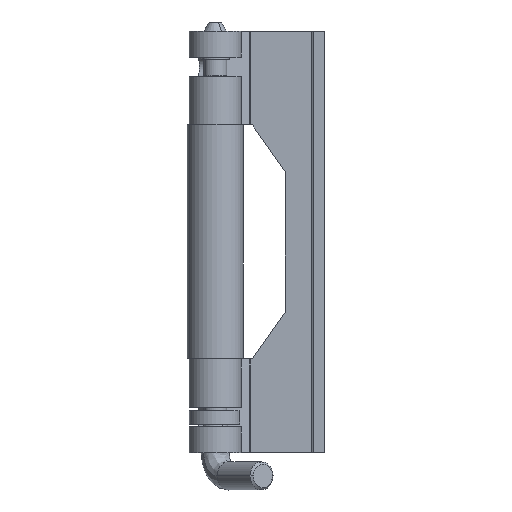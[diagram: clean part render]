
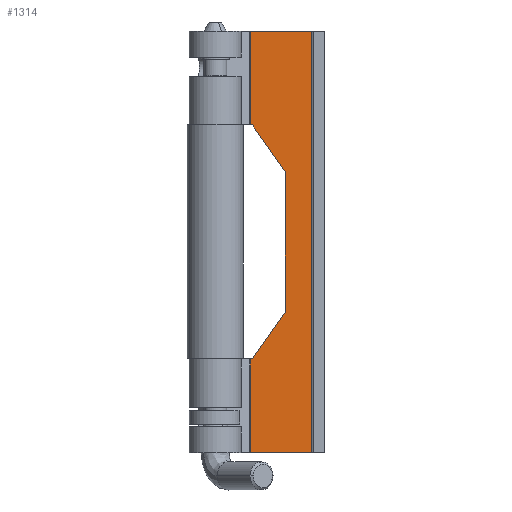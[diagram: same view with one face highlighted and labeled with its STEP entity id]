
A CAD part, front view. The second image highlights one B-rep face of the part: STEP entity #1314.
In plain terms, the highlighted planar face has unit normal (0, -1, 0).
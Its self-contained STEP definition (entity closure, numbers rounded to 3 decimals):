
#95 = AXIS2_PLACEMENT_3D ( 'NONE', #285, #227, #241 ) ;
#124 = DIRECTION ( 'NONE',  ( -0.574, 0., -0.819 ) ) ;
#148 = LINE ( 'NONE', #2706, #1033 ) ;
#183 = VERTEX_POINT ( 'NONE', #734 ) ;
#227 = DIRECTION ( 'NONE',  ( 0., 1., 0. ) ) ;
#233 = CARTESIAN_POINT ( 'NONE',  ( 20.65, 18.95, 90. ) ) ;
#241 = DIRECTION ( 'NONE',  ( 0., 0., 1. ) ) ;
#285 = CARTESIAN_POINT ( 'NONE',  ( 6.87, 18.95, 90. ) ) ;
#298 = CARTESIAN_POINT ( 'NONE',  ( 6.87, 18.95, 70. ) ) ;
#325 = EDGE_CURVE ( 'NONE', #568, #3334, #2840, .T. ) ;
#328 = DIRECTION ( 'NONE',  ( -1., 0., 0. ) ) ;
#440 = CARTESIAN_POINT ( 'NONE',  ( 40.483, 18.95, 66.464 ) ) ;
#492 = ORIENTED_EDGE ( 'NONE', *, *, #848, .F. ) ;
#568 = VERTEX_POINT ( 'NONE', #2238 ) ;
#573 = DIRECTION ( 'NONE',  ( 0., 0., -1. ) ) ;
#642 = ORIENTED_EDGE ( 'NONE', *, *, #2777, .T. ) ;
#734 = CARTESIAN_POINT ( 'NONE',  ( 7.498, 18.95, 90. ) ) ;
#768 = FACE_OUTER_BOUND ( 'NONE', #4289, .T. ) ;
#848 = EDGE_CURVE ( 'NONE', #2001, #183, #148, .T. ) ;
#883 = CARTESIAN_POINT ( 'NONE',  ( 7.498, 18.95, 0. ) ) ;
#1033 = VECTOR ( 'NONE', #2673, 1000. ) ;
#1055 = CARTESIAN_POINT ( 'NONE',  ( 7.948, 18.95, 20. ) ) ;
#1117 = VERTEX_POINT ( 'NONE', #2151 ) ;
#1145 = VERTEX_POINT ( 'NONE', #4247 ) ;
#1196 = DIRECTION ( 'NONE',  ( 0., 0., 1. ) ) ;
#1240 = CARTESIAN_POINT ( 'NONE',  ( 7.948, 18.95, 70. ) ) ;
#1285 = ORIENTED_EDGE ( 'NONE', *, *, #4010, .F. ) ;
#1314 = ADVANCED_FACE ( 'NONE', ( #768 ), #3478, .F. ) ;
#1317 = VERTEX_POINT ( 'NONE', #1333 ) ;
#1333 = CARTESIAN_POINT ( 'NONE',  ( 20.65, 18.95, 90. ) ) ;
#1365 = DIRECTION ( 'NONE',  ( 1., 0., 0. ) ) ;
#1373 = ORIENTED_EDGE ( 'NONE', *, *, #325, .T. ) ;
#1396 = CARTESIAN_POINT ( 'NONE',  ( 6.87, 18.95, 20. ) ) ;
#1446 = EDGE_CURVE ( 'NONE', #1145, #3334, #3670, .T. ) ;
#1477 = VECTOR ( 'NONE', #4085, 1000. ) ;
#1528 = LINE ( 'NONE', #298, #3295 ) ;
#1533 = CARTESIAN_POINT ( 'NONE',  ( 7.498, 18.95, 90. ) ) ;
#1584 = VECTOR ( 'NONE', #1981, 1000. ) ;
#1713 = ORIENTED_EDGE ( 'NONE', *, *, #3709, .T. ) ;
#1717 = DIRECTION ( 'NONE',  ( 1., 0., 0. ) ) ;
#1906 = LINE ( 'NONE', #4157, #3178 ) ;
#1948 = VERTEX_POINT ( 'NONE', #1240 ) ;
#1965 = ORIENTED_EDGE ( 'NONE', *, *, #2052, .F. ) ;
#1981 = DIRECTION ( 'NONE',  ( 0.574, 0., -0.819 ) ) ;
#1993 = VECTOR ( 'NONE', #124, 1000. ) ;
#2001 = VERTEX_POINT ( 'NONE', #2308 ) ;
#2052 = EDGE_CURVE ( 'NONE', #1117, #4324, #3301, .T. ) ;
#2081 = CARTESIAN_POINT ( 'NONE',  ( 20.95, 18.95, 0. ) ) ;
#2151 = CARTESIAN_POINT ( 'NONE',  ( 20.65, 18.95, 0. ) ) ;
#2238 = CARTESIAN_POINT ( 'NONE',  ( 14.95, 18.95, 30. ) ) ;
#2243 = VECTOR ( 'NONE', #573, 1000. ) ;
#2252 = EDGE_CURVE ( 'NONE', #4324, #1145, #4146, .T. ) ;
#2308 = CARTESIAN_POINT ( 'NONE',  ( 7.498, 18.95, 70. ) ) ;
#2634 = VECTOR ( 'NONE', #1365, 1000. ) ;
#2654 = CARTESIAN_POINT ( 'NONE',  ( 14.95, 18.95, 90. ) ) ;
#2673 = DIRECTION ( 'NONE',  ( 0., 0., 1. ) ) ;
#2706 = CARTESIAN_POINT ( 'NONE',  ( 7.498, 18.95, 90. ) ) ;
#2777 = EDGE_CURVE ( 'NONE', #1117, #1317, #3344, .T. ) ;
#2840 = LINE ( 'NONE', #440, #1993 ) ;
#2872 = CARTESIAN_POINT ( 'NONE',  ( 14.95, 18.95, 60. ) ) ;
#3008 = VERTEX_POINT ( 'NONE', #2872 ) ;
#3173 = LINE ( 'NONE', #2654, #2243 ) ;
#3178 = VECTOR ( 'NONE', #1717, 1000. ) ;
#3260 = EDGE_CURVE ( 'NONE', #183, #1317, #1906, .T. ) ;
#3295 = VECTOR ( 'NONE', #4483, 1000. ) ;
#3301 = LINE ( 'NONE', #2081, #3884 ) ;
#3334 = VERTEX_POINT ( 'NONE', #1055 ) ;
#3344 = LINE ( 'NONE', #233, #1477 ) ;
#3452 = VECTOR ( 'NONE', #1196, 1000. ) ;
#3478 = PLANE ( 'NONE',  #95 ) ;
#3480 = ORIENTED_EDGE ( 'NONE', *, *, #2252, .F. ) ;
#3531 = ORIENTED_EDGE ( 'NONE', *, *, #3260, .F. ) ;
#3621 = ORIENTED_EDGE ( 'NONE', *, *, #4390, .T. ) ;
#3670 = LINE ( 'NONE', #1396, #2634 ) ;
#3677 = ORIENTED_EDGE ( 'NONE', *, *, #1446, .F. ) ;
#3709 = EDGE_CURVE ( 'NONE', #1948, #3008, #4362, .T. ) ;
#3731 = CARTESIAN_POINT ( 'NONE',  ( -1.804, 18.95, 83.927 ) ) ;
#3884 = VECTOR ( 'NONE', #328, 1000. ) ;
#4010 = EDGE_CURVE ( 'NONE', #1948, #2001, #1528, .T. ) ;
#4085 = DIRECTION ( 'NONE',  ( 0., 0., 1. ) ) ;
#4146 = LINE ( 'NONE', #1533, #3452 ) ;
#4157 = CARTESIAN_POINT ( 'NONE',  ( 7.37, 18.95, 90. ) ) ;
#4247 = CARTESIAN_POINT ( 'NONE',  ( 7.498, 18.95, 20. ) ) ;
#4289 = EDGE_LOOP ( 'NONE', ( #3480, #1965, #642, #3531, #492, #1285, #1713, #3621, #1373, #3677 ) ) ;
#4324 = VERTEX_POINT ( 'NONE', #883 ) ;
#4362 = LINE ( 'NONE', #3731, #1584 ) ;
#4390 = EDGE_CURVE ( 'NONE', #3008, #568, #3173, .T. ) ;
#4483 = DIRECTION ( 'NONE',  ( -1., 0., 0. ) ) ;
